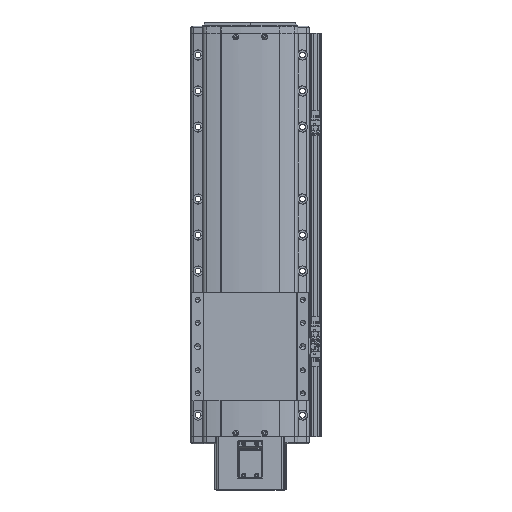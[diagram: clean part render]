
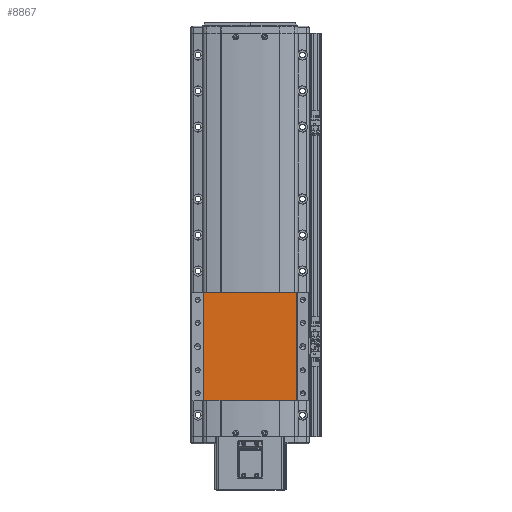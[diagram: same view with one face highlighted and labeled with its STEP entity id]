
A CAD part, top view. The second image highlights one B-rep face of the part: STEP entity #8867.
In plain terms, the highlighted planar face has unit normal (0, 0, 1).
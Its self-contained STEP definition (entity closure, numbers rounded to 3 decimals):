
#8867=ADVANCED_FACE('',(#18737),#18738,.F.);
#18737=FACE_OUTER_BOUND('',#31615,.T.);
#18738=PLANE('',#31616);
#31615=EDGE_LOOP('',(#58041,#58042,#58043,#58044));
#31616=AXIS2_PLACEMENT_3D('',#58045,#58046,#58047);
#58041=ORIENTED_EDGE('',*,*,#74413,.F.);
#58042=ORIENTED_EDGE('',*,*,#77717,.F.);
#58043=ORIENTED_EDGE('',*,*,#78202,.F.);
#58044=ORIENTED_EDGE('',*,*,#78203,.T.);
#58045=CARTESIAN_POINT('',(-600.,222.222,51.5));
#58046=DIRECTION('',(0.,0.,-1.0));
#58047=DIRECTION('',(-1.0,0.,0.));
#74413=EDGE_CURVE('',#91111,#91113,#91114,.T.);
#77717=EDGE_CURVE('',#95656,#91111,#95658,.T.);
#78202=EDGE_CURVE('',#96251,#95656,#96252,.T.);
#78203=EDGE_CURVE('',#96251,#91113,#96253,.T.);
#91111=VERTEX_POINT('',#113838);
#91113=VERTEX_POINT('',#113840);
#91114=LINE('',#113841,#113842);
#95656=VERTEX_POINT('',#120752);
#95658=LINE('',#120754,#120755);
#96251=VERTEX_POINT('',#121588);
#96252=LINE('',#121589,#121590);
#96253=LINE('',#121591,#121592);
#113838=CARTESIAN_POINT('',(-664.376,372.222,51.5));
#113840=CARTESIAN_POINT('',(-535.624,372.222,51.5));
#113841=CARTESIAN_POINT('',(-535.624,372.222,51.5));
#113842=VECTOR('',#133416,10.0);
#120752=CARTESIAN_POINT('',(-664.376,222.222,51.5));
#120754=CARTESIAN_POINT('',(-664.376,222.222,51.5));
#120755=VECTOR('',#137533,10.0);
#121588=CARTESIAN_POINT('',(-535.624,222.222,51.5));
#121589=CARTESIAN_POINT('',(-535.624,222.222,51.5));
#121590=VECTOR('',#138112,10.0);
#121591=CARTESIAN_POINT('',(-535.624,222.222,51.5));
#121592=VECTOR('',#138113,10.0);
#133416=DIRECTION('',(1.0,0.,0.));
#137533=DIRECTION('',(0.,1.0,0.));
#138112=DIRECTION('',(-1.0,0.,0.));
#138113=DIRECTION('',(0.,1.0,0.));
